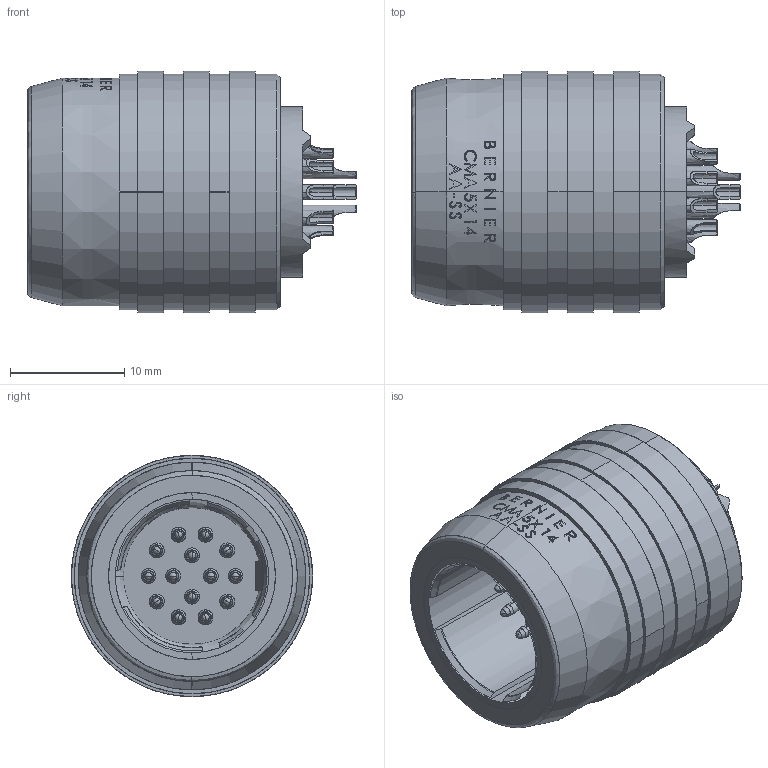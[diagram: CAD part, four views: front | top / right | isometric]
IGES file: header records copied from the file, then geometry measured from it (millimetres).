
Start section: SolidWorks IGES file using analytic representation for surfaces
Global section: file name: K:\8-BE\Solidworks\IGES\CMA5X14\CMA5X14.IGS; native system: SolidWorks 2016; preprocessor: SolidWorks 2016; author: lla; date: 171011.162918; units: millimetre
Bounding box: 28.72 x 21.08 x 21.08 mm (x, y, z)
Surface area: 4480.3 mm2 (no closed solid volume)
Topology: 0 solids, 0 shells, 1071 faces, 8590 edges, 8533 vertices
Faces by surface type: bspline 645, revolution 426
